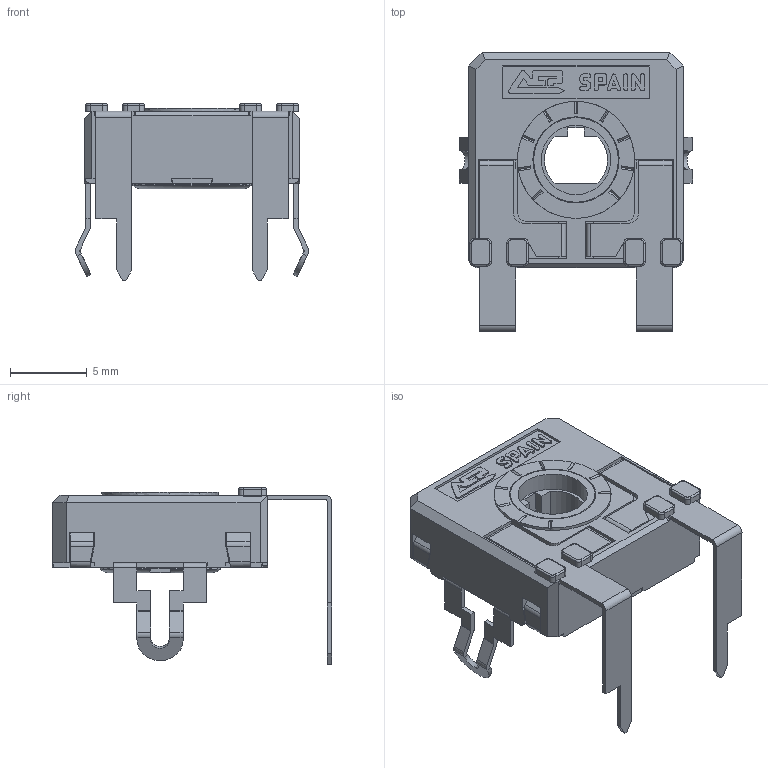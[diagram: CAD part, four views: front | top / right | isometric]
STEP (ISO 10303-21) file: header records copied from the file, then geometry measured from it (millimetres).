
FILE_DESCRIPTION(/* description */ (''),/* implementation_level */ '2;1');
FILE_NAME(/* name */ 'C:\Users\CEM\Desktop\ENVIAR\TRANSICION 3D CATALOGOS\RS14TVD11.stp',/* time_stamp */ '2025-12-10T11:27:55+01:00',/* author */ ('CEM'),/* organization */ (''),/* preprocessor_version */ 'ST-DEVELOPER v16.13',/* originating_system */ 'Autodesk Inventor 2018',/* authorisation */ '');
FILE_SCHEMA (('AUTOMOTIVE_DESIGN { 1 0 10303 214 3 1 1 }'));
Length unit declared in the file: millimetre
Products named in the file (1): CARCASA CA14 PGA
Bounding box: 15.16 x 18.15 x 11.5 mm (x, y, z)
Volume: 535.4 mm3; surface area: 1573.5 mm2
Topology: 1 solids, 1 shells, 723 faces, 2045 edges, 1315 vertices
Faces by surface type: plane 527, cylinder 159, torus 23, bspline 8, cone 6
Full cylindrical faces by diameter (mm): 4.5 x1, 5.5 x1, 5.6 x1, 5.752 x1, 6.8 x1, 7.6 x1
Entity records: 23525 total; most frequent: CARTESIAN_POINT 4276, ORIENTED_EDGE 4060, DIRECTION 3840, EDGE_CURVE 2030, LINE 1596, VECTOR 1596, VERTEX_POINT 1310, AXIS2_PLACEMENT_3D 1122
